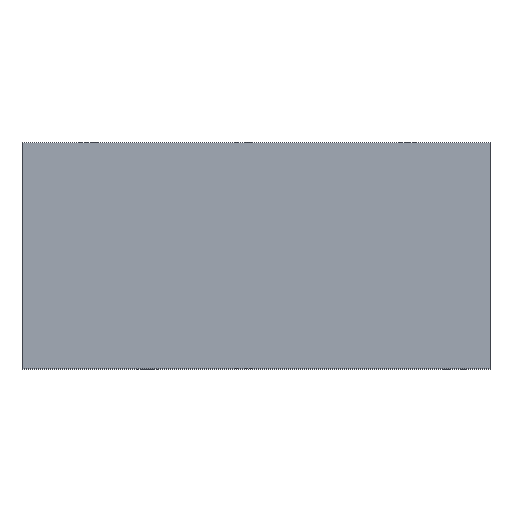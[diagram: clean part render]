
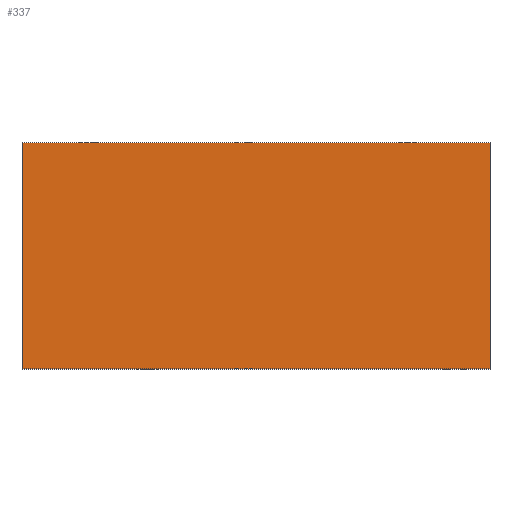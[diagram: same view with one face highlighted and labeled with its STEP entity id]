
A CAD part, top view. The second image highlights one B-rep face of the part: STEP entity #337.
In plain terms, the highlighted planar face has unit normal (0, 0, 1).
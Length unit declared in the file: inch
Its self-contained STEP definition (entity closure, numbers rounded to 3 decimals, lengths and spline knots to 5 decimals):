
#40 = LINE ( 'NONE', #421, #419 ) ;
#80 = VERTEX_POINT ( 'NONE', #229 ) ;
#97 = CARTESIAN_POINT ( 'NONE',  ( 2.07, 0., 0. ) ) ;
#110 = EDGE_LOOP ( 'NONE', ( #624, #121, #343, #315 ) ) ;
#121 = ORIENTED_EDGE ( 'NONE', *, *, #342, .F. ) ;
#149 = CARTESIAN_POINT ( 'NONE',  ( 0., 1., 0. ) ) ;
#150 = CARTESIAN_POINT ( 'NONE',  ( 2.07, 1., 0. ) ) ;
#151 = LINE ( 'NONE', #149, #294 ) ;
#164 = VERTEX_POINT ( 'NONE', #415 ) ;
#197 = VERTEX_POINT ( 'NONE', #97 ) ;
#214 = DIRECTION ( 'NONE',  ( 1., 0., 0. ) ) ;
#229 = CARTESIAN_POINT ( 'NONE',  ( 2.07, 1., 0. ) ) ;
#258 = LINE ( 'NONE', #260, #381 ) ;
#260 = CARTESIAN_POINT ( 'NONE',  ( 0., 1., 0. ) ) ;
#287 = AXIS2_PLACEMENT_3D ( 'NONE', #518, #423, #371 ) ;
#294 = VECTOR ( 'NONE', #474, 39.37008 ) ;
#315 = ORIENTED_EDGE ( 'NONE', *, *, #585, .T. ) ;
#327 = DIRECTION ( 'NONE',  ( 1., 0., 0. ) ) ;
#328 = DIRECTION ( 'NONE',  ( 0., -1., 0. ) ) ;
#337 = ADVANCED_FACE ( 'NONE', ( #488 ), #471, .F. ) ;
#342 = EDGE_CURVE ( 'NONE', #80, #197, #621, .T. ) ;
#343 = ORIENTED_EDGE ( 'NONE', *, *, #526, .F. ) ;
#371 = DIRECTION ( 'NONE',  ( -1., 0., 0. ) ) ;
#381 = VECTOR ( 'NONE', #214, 39.37008 ) ;
#382 = VERTEX_POINT ( 'NONE', #504 ) ;
#415 = CARTESIAN_POINT ( 'NONE',  ( 0., 1., 0. ) ) ;
#419 = VECTOR ( 'NONE', #327, 39.37008 ) ;
#421 = CARTESIAN_POINT ( 'NONE',  ( 0., 0., 0. ) ) ;
#423 = DIRECTION ( 'NONE',  ( 0., 0., -1. ) ) ;
#445 = VECTOR ( 'NONE', #328, 39.37008 ) ;
#471 = PLANE ( 'NONE',  #287 ) ;
#474 = DIRECTION ( 'NONE',  ( 0., -1., 0. ) ) ;
#488 = FACE_OUTER_BOUND ( 'NONE', #110, .T. ) ;
#504 = CARTESIAN_POINT ( 'NONE',  ( 0., 0., 0. ) ) ;
#518 = CARTESIAN_POINT ( 'NONE',  ( 0., 1., 0. ) ) ;
#526 = EDGE_CURVE ( 'NONE', #164, #80, #258, .T. ) ;
#585 = EDGE_CURVE ( 'NONE', #164, #382, #151, .T. ) ;
#601 = EDGE_CURVE ( 'NONE', #382, #197, #40, .T. ) ;
#621 = LINE ( 'NONE', #150, #445 ) ;
#624 = ORIENTED_EDGE ( 'NONE', *, *, #601, .T. ) ;
